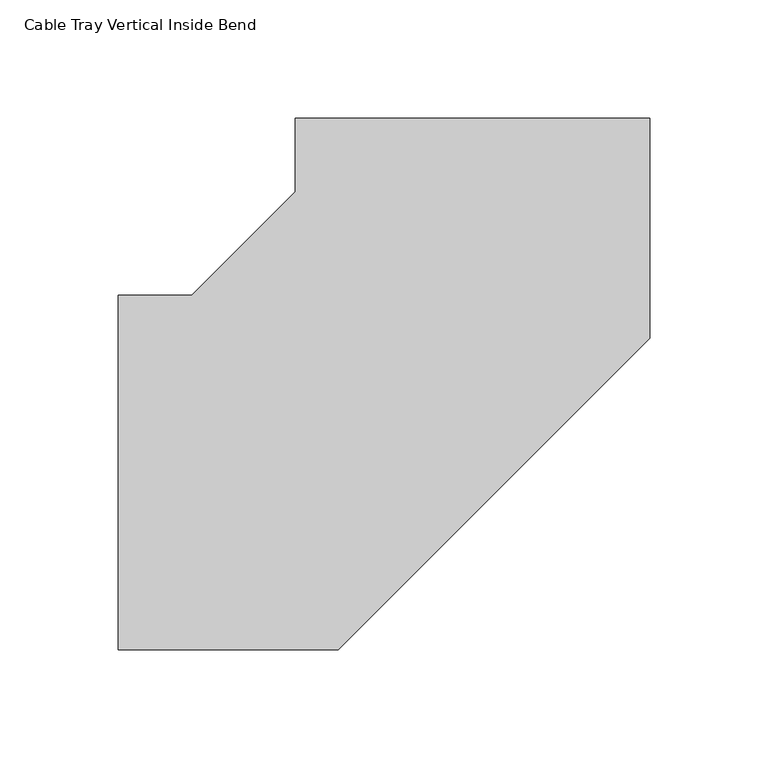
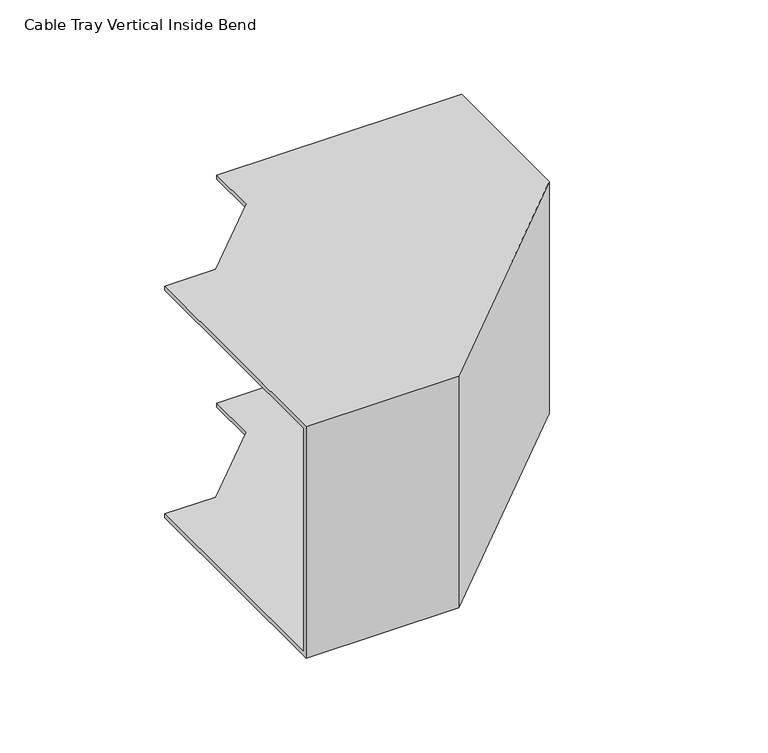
"""IFC4 building model written with IfcOpenShell, lengths in millimetres: cable carrier fitting geometry, Cable Tray Vertical Inside Bend : ELEC_ELV_TKG_N2402."""

from ifc_helpers import new_model, si_unit, origin, place, context, project, spatial, faceted_brep, source, transform, mapped, element, save


def cable_tray_vertical_inside_bend_d6d3fe29(model_context):
    return source(origin(), model_context, "Body", "Brep", [
        faceted_brep([(-149.9949167, 75.0, 75.0), (-149.9949167, 75.0, 72.46), (-149.9949167, -72.46, 72.46), (-149.9949167, -72.46, -72.46), (-149.9949167, 75.0, -72.46), (-149.9949167, 75.0, -75.0), (-149.9949167, -75.0, -75.0), (-149.9949167, -75.0, 75.0), (-74.9949167, 149.9974583, 75.0), (75.0050832, 149.9923749, 75.0), (75.0050832, 149.9923749, -75.0), (-74.9949167, 149.9974583, -75.0), (-74.9949167, 149.9974583, -72.46), (72.4650832, 149.9924609, -72.46), (72.4650832, 149.9924609, 72.46), (-74.9949167, 149.9974583, 72.46), (-118.9296439, 75.0, 75.0), (-118.9296439, 75.0, 72.46), (-74.9959695, 118.9321856, 72.46), (72.4619605, 57.84872, 72.46), (-57.8511757, -72.46, 72.46), (-57.8511757, -72.46, -72.46), (72.4619605, 57.84872, -72.46), (-74.9959695, 118.9321856, -72.46), (-118.9296439, 75.0, -72.46), (-118.9296439, 75.0, -75.0), (-74.9959695, 118.9321856, -75.0), (75.0019248, 56.7965567, -75.0), (-56.7990985, -75.0, -75.0), (-56.7990985, -75.0, 75.0), (75.0019248, 56.7965567, 75.0), (-74.9959695, 118.9321856, 75.0)], [[[0, 1, 2, 3, 4, 5, 6, 7]], [[8, 9, 10, 11, 12, 13, 14, 15]], [[1, 0, 16, 17]], [[2, 1, 17, 18, 15, 14, 19, 20]], [[3, 2, 20, 21]], [[4, 3, 21, 22, 13, 12, 23, 24]], [[5, 4, 24, 25]], [[6, 5, 25, 26, 11, 10, 27, 28]], [[7, 6, 28, 29]], [[0, 7, 29, 30, 9, 8, 31, 16]], [[17, 16, 31, 18]], [[21, 20, 19, 22]], [[25, 24, 23, 26]], [[29, 28, 27, 30]], [[18, 31, 8, 15]], [[22, 19, 14, 13]], [[26, 23, 12, 11]], [[30, 27, 10, 9]]]),
    ])


if __name__ == "__main__":
    model = new_model("IFC4")
    model_context = context("Model", 3, world=origin())
    ifc_project = project(units=[si_unit("LENGTHUNIT", "METRE", prefix="MILLI")], contexts=[model_context])
    site = spatial("IfcSite", under=ifc_project)
    building = spatial("IfcBuilding", under=site)
    placement = place(None, origin())
    cable_tray_vertical_inside_bend_shape = cable_tray_vertical_inside_bend_d6d3fe29(model_context)
    element("IfcCableCarrierFitting", 1, ObjectType="Cable Tray Vertical Inside Bend : ELEC_ELV_TKG_N2402", at=placement, inside=building, context=model_context, shape_type="MappedRepresentation", body=[
        mapped(cable_tray_vertical_inside_bend_shape, transform((0.0, 0.0, 0.0), x_axis=(1.0, 0.0, 0.0), y_axis=(0.0, 1.0, 0.0), z_axis=(0.0, 0.0, 1.0))),
    ])
    save(model, "model.ifc")
